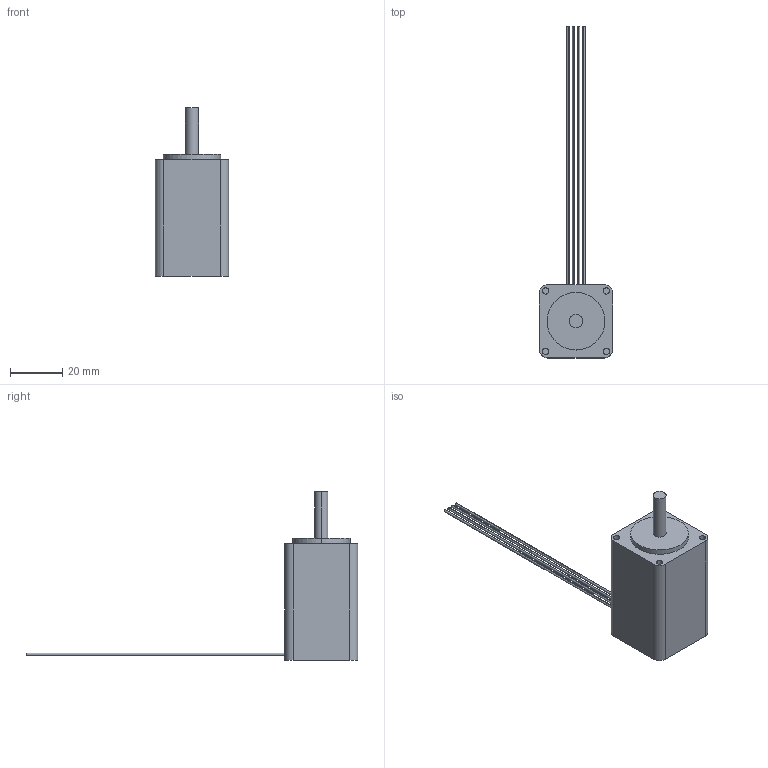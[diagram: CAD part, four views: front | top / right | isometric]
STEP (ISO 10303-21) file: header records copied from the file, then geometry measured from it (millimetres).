
FILE_DESCRIPTION(('STEP AP203'),'1');
FILE_NAME(' ',' ',('TraceParts'),('TraceParts S.A.'),'XStep 1.0',' ',' ');
FILE_SCHEMA(('CONFIG_CONTROL_DESIGN'));
Length unit declared in the file: millimetre
Products named in the file (1): 1
Bounding box: 27.94 x 126.66 x 64.26 mm (x, y, z)
Volume: 34865.4 mm3; surface area: 9251.6 mm2
Topology: 1 solids, 1 shells, 40 faces, 86 edges, 58 vertices
Faces by surface type: cylinder 24, plane 16
Entity records: 1160 total; most frequent: DIRECTION 218, CARTESIAN_POINT 185, ORIENTED_EDGE 172, AXIS2_PLACEMENT_3D 91, EDGE_CURVE 86, VERTEX_POINT 58, EDGE_LOOP 50, CIRCLE 50
